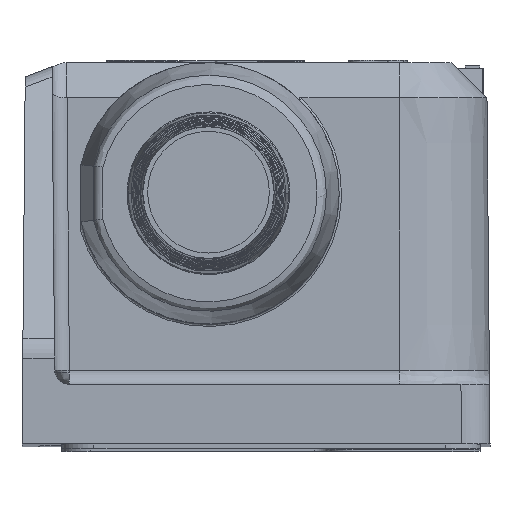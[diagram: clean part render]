
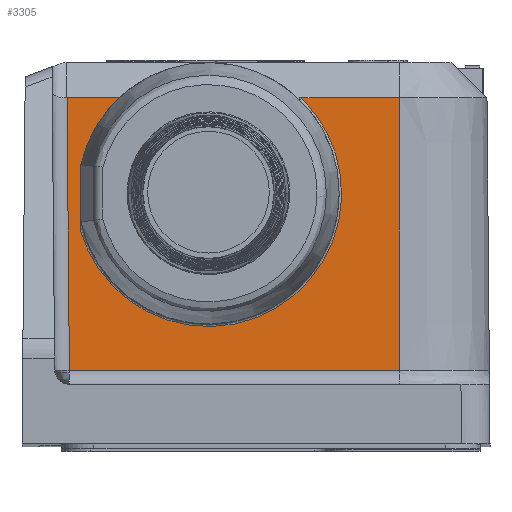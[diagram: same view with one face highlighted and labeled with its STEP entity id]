
A CAD part, top view. The second image highlights one B-rep face of the part: STEP entity #3305.
In plain terms, the highlighted planar face has unit normal (0, 0.009, 1).
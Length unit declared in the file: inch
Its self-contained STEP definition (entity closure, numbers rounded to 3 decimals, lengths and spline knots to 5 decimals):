
#3095 = EDGE_CURVE ( 'NONE', #3096, #3100, #11947, .T. ) ;
#3096 = VERTEX_POINT ( 'NONE', #11941 ) ;
#3100 = VERTEX_POINT ( 'NONE', #11895 ) ;
#3102 = EDGE_CURVE ( 'NONE', #3103, #3100, #11893, .T. ) ;
#3103 = VERTEX_POINT ( 'NONE', #11845 ) ;
#3229 = VERTEX_POINT ( 'NONE', #12611 ) ;
#3277 = EDGE_CURVE ( 'NONE', #3426, #3427, #13022, .T. ) ;
#3284 = VERTEX_POINT ( 'NONE', #13157 ) ;
#3305 = ADVANCED_FACE ( 'NONE', ( #13248 ), #13002, .T. ) ;
#3306 = EDGE_LOOP ( 'NONE', ( #3307, #3320, #3433, #3435, #3436, #3437, #3338, #3339 ) ) ;
#3307 = ORIENTED_EDGE ( 'NONE', *, *, #3445, .F. ) ;
#3320 = ORIENTED_EDGE ( 'NONE', *, *, #3277, .T. ) ;
#3338 = ORIENTED_EDGE ( 'NONE', *, *, #3102, .T. ) ;
#3339 = ORIENTED_EDGE ( 'NONE', *, *, #3095, .F. ) ;
#3395 = VERTEX_POINT ( 'NONE', #13653 ) ;
#3398 = EDGE_CURVE ( 'NONE', #3229, #3284, #13721, .T. ) ;
#3418 = EDGE_CURVE ( 'NONE', #3395, #3284, #13867, .T. ) ;
#3426 = VERTEX_POINT ( 'NONE', #13856 ) ;
#3427 = VERTEX_POINT ( 'NONE', #13855 ) ;
#3433 = ORIENTED_EDGE ( 'NONE', *, *, #3434, .T. ) ;
#3434 = EDGE_CURVE ( 'NONE', #3427, #3395, #21341, .T. ) ;
#3435 = ORIENTED_EDGE ( 'NONE', *, *, #3418, .T. ) ;
#3436 = ORIENTED_EDGE ( 'NONE', *, *, #3398, .F. ) ;
#3437 = ORIENTED_EDGE ( 'NONE', *, *, #3438, .T. ) ;
#3438 = EDGE_CURVE ( 'NONE', #3229, #3103, #21513, .T. ) ;
#3445 = EDGE_CURVE ( 'NONE', #3426, #3096, #20079, .T. ) ;
#11845 = CARTESIAN_POINT ( 'NONE',  ( -0.30486, 0.15573, 0.81064 ) ) ;
#11848 = DIRECTION ( 'NONE',  ( 1., 0., 0. ) ) ;
#11890 = VECTOR ( 'NONE', #11848, 39.37008 ) ;
#11891 = CARTESIAN_POINT ( 'NONE',  ( 0.39547, 0.15573, 0.81064 ) ) ;
#11893 = LINE ( 'NONE', #11891, #11890 ) ;
#11895 = CARTESIAN_POINT ( 'NONE',  ( 0.3895, 0.15573, 0.81064 ) ) ;
#11941 = CARTESIAN_POINT ( 'NONE',  ( 0.3895, 0.72937, 0.80563 ) ) ;
#11942 = DIRECTION ( 'NONE',  ( 0., -1., 0.009 ) ) ;
#11944 = VECTOR ( 'NONE', #11942, 39.37008 ) ;
#11945 = CARTESIAN_POINT ( 'NONE',  ( 0.3895, -19645.66929, 172.25716 ) ) ;
#11947 = LINE ( 'NONE', #11945, #11944 ) ;
#12611 = CARTESIAN_POINT ( 'NONE',  ( -0.30987, 0.72937, 0.80563 ) ) ;
#12998 = DIRECTION ( 'NONE',  ( 0., -1., 0.009 ) ) ;
#12999 = DIRECTION ( 'NONE',  ( 0., 0.009, 1. ) ) ;
#13000 = CARTESIAN_POINT ( 'NONE',  ( -1.44884, 0., 0.812 ) ) ;
#13001 = AXIS2_PLACEMENT_3D ( 'NONE', #13000, #12999, #12998 ) ;
#13002 = PLANE ( 'NONE',  #13001 ) ;
#13020 = CARTESIAN_POINT ( 'NONE',  ( 0.18201, 0.72937, 0.80563 ) ) ;
#13022 = B_SPLINE_CURVE_WITH_KNOTS ( 'NONE', 3,
 ( #13020, #13109, #13108, #13107, #13106, #13105, #13104, #13103, #13102, #13101, #13100, #13099, #13098, #13097, #13096, #13095, #13094, #13155, #13154, #13153, #13152, #13151, #13150, #13149, #13148, #13147, #13146, #13145, #13144, #13143, #13142, #13141, #13140, #13139, #13138, #13137, #13136, #13135, #13134, #13133 ),
 .UNSPECIFIED., .F., .F.,
 ( 4, 1, 2, 2, 2, 2, 2, 2, 2, 2, 2, 2, 2, 2, 2, 2, 2, 1, 2, 2, 4 ),
 ( 0., 0.03125, 0.04688, 0.0625, 0.125, 0.1875, 0.25, 0.3125, 0.375, 0.4375, 0.5, 0.5625, 0.625, 0.6875, 0.75, 0.8125, 0.875, 0.90625, 0.92188, 0.9375, 1. ),
 .UNSPECIFIED. ) ;
#13094 = CARTESIAN_POINT ( 'NONE',  ( 0.21205, 0.35933, 0.80886 ) ) ;
#13095 = CARTESIAN_POINT ( 'NONE',  ( 0.23506, 0.39541, 0.80855 ) ) ;
#13096 = CARTESIAN_POINT ( 'NONE',  ( 0.2444, 0.41456, 0.80838 ) ) ;
#13097 = CARTESIAN_POINT ( 'NONE',  ( 0.25865, 0.45492, 0.80803 ) ) ;
#13098 = CARTESIAN_POINT ( 'NONE',  ( 0.26341, 0.47568, 0.80785 ) ) ;
#13099 = CARTESIAN_POINT ( 'NONE',  ( 0.26815, 0.51823, 0.80748 ) ) ;
#13100 = CARTESIAN_POINT ( 'NONE',  ( 0.26808, 0.53953, 0.80729 ) ) ;
#13101 = CARTESIAN_POINT ( 'NONE',  ( 0.26306, 0.58203, 0.80692 ) ) ;
#13102 = CARTESIAN_POINT ( 'NONE',  ( 0.25817, 0.60277, 0.80674 ) ) ;
#13103 = CARTESIAN_POINT ( 'NONE',  ( 0.24366, 0.64301, 0.80639 ) ) ;
#13104 = CARTESIAN_POINT ( 'NONE',  ( 0.2342, 0.6621, 0.80622 ) ) ;
#13105 = CARTESIAN_POINT ( 'NONE',  ( 0.21964, 0.6846, 0.80603 ) ) ;
#13106 = CARTESIAN_POINT ( 'NONE',  ( 0.21666, 0.68893, 0.80599 ) ) ;
#13107 = CARTESIAN_POINT ( 'NONE',  ( 0.2104, 0.6975, 0.80591 ) ) ;
#13108 = CARTESIAN_POINT ( 'NONE',  ( 0.20063, 0.71008, 0.8058 ) ) ;
#13109 = CARTESIAN_POINT ( 'NONE',  ( 0.18975, 0.72186, 0.8057 ) ) ;
#13133 = CARTESIAN_POINT ( 'NONE',  ( -0.28087, 0.44808, 0.80808 ) ) ;
#13134 = CARTESIAN_POINT ( 'NONE',  ( -0.27467, 0.42741, 0.80827 ) ) ;
#13135 = CARTESIAN_POINT ( 'NONE',  ( -0.26632, 0.40785, 0.80844 ) ) ;
#13136 = CARTESIAN_POINT ( 'NONE',  ( -0.25318, 0.38479, 0.80864 ) ) ;
#13137 = CARTESIAN_POINT ( 'NONE',  ( -0.25038, 0.38017, 0.80868 ) ) ;
#13138 = CARTESIAN_POINT ( 'NONE',  ( -0.24458, 0.37121, 0.80876 ) ) ;
#13139 = CARTESIAN_POINT ( 'NONE',  ( -0.23551, 0.35805, 0.80888 ) ) ;
#13140 = CARTESIAN_POINT ( 'NONE',  ( -0.22535, 0.34572, 0.80898 ) ) ;
#13141 = CARTESIAN_POINT ( 'NONE',  ( -0.20358, 0.32218, 0.80919 ) ) ;
#13142 = CARTESIAN_POINT ( 'NONE',  ( -0.18743, 0.30828, 0.80931 ) ) ;
#13143 = CARTESIAN_POINT ( 'NONE',  ( -0.152, 0.28424, 0.80952 ) ) ;
#13144 = CARTESIAN_POINT ( 'NONE',  ( -0.13313, 0.27437, 0.80961 ) ) ;
#13145 = CARTESIAN_POINT ( 'NONE',  ( -0.09318, 0.25898, 0.80974 ) ) ;
#13146 = CARTESIAN_POINT ( 'NONE',  ( -0.07256, 0.25364, 0.80979 ) ) ;
#13147 = CARTESIAN_POINT ( 'NONE',  ( -0.03018, 0.2477, 0.80984 ) ) ;
#13148 = CARTESIAN_POINT ( 'NONE',  ( -0.00888, 0.24716, 0.80984 ) ) ;
#13149 = CARTESIAN_POINT ( 'NONE',  ( 0.03375, 0.25098, 0.80981 ) ) ;
#13150 = CARTESIAN_POINT ( 'NONE',  ( 0.05461, 0.25528, 0.80977 ) ) ;
#13151 = CARTESIAN_POINT ( 'NONE',  ( 0.09528, 0.26865, 0.80966 ) ) ;
#13152 = CARTESIAN_POINT ( 'NONE',  ( 0.11462, 0.27756, 0.80958 ) ) ;
#13153 = CARTESIAN_POINT ( 'NONE',  ( 0.1512, 0.29979, 0.80938 ) ) ;
#13154 = CARTESIAN_POINT ( 'NONE',  ( 0.16803, 0.31286, 0.80927 ) ) ;
#13155 = CARTESIAN_POINT ( 'NONE',  ( 0.19861, 0.34279, 0.80901 ) ) ;
#13157 = CARTESIAN_POINT ( 'NONE',  ( -0.19979, 0.72937, 0.80563 ) ) ;
#13248 = FACE_OUTER_BOUND ( 'NONE', #3306, .T. ) ;
#13648 = DIRECTION ( 'NONE',  ( 1., 0., 0. ) ) ;
#13649 = VECTOR ( 'NONE', #13648, 39.37008 ) ;
#13653 = CARTESIAN_POINT ( 'NONE',  ( -0.28087, 0.58804, 0.80687 ) ) ;
#13720 = CARTESIAN_POINT ( 'NONE',  ( -0.0075, 0.72937, 0.80563 ) ) ;
#13721 = LINE ( 'NONE', #13720, #13649 ) ;
#13761 = CARTESIAN_POINT ( 'NONE',  ( -0.19979, 0.72937, 0.80563 ) ) ;
#13763 = CARTESIAN_POINT ( 'NONE',  ( -0.22018, 0.71036, 0.8058 ) ) ;
#13765 = CARTESIAN_POINT ( 'NONE',  ( -0.23726, 0.68885, 0.80599 ) ) ;
#13766 = CARTESIAN_POINT ( 'NONE',  ( -0.2648, 0.64084, 0.80641 ) ) ;
#13783 = CARTESIAN_POINT ( 'NONE',  ( -0.27476, 0.61522, 0.80663 ) ) ;
#13784 = CARTESIAN_POINT ( 'NONE',  ( -0.28087, 0.58804, 0.80687 ) ) ;
#13855 = CARTESIAN_POINT ( 'NONE',  ( -0.28087, 0.44808, 0.80808 ) ) ;
#13856 = CARTESIAN_POINT ( 'NONE',  ( 0.18201, 0.72937, 0.80563 ) ) ;
#13867 = B_SPLINE_CURVE_WITH_KNOTS ( 'NONE', 3,
 ( #13784, #13783, #13766, #13765, #13763, #13761 ),
 .UNSPECIFIED., .F., .F.,
 ( 4, 2, 4 ),
 ( 0., 0.5, 1. ),
 .UNSPECIFIED. ) ;
#20079 = B_SPLINE_CURVE_WITH_KNOTS ( 'NONE', 3,
 ( #20136, #20135, #20146, #20144 ),
 .UNSPECIFIED., .F., .F.,
 ( 4, 4 ),
 ( 0., 1. ),
 .UNSPECIFIED. ) ;
#20135 = CARTESIAN_POINT ( 'NONE',  ( 0.25117, 0.72937, 0.80563 ) ) ;
#20136 = CARTESIAN_POINT ( 'NONE',  ( 0.18201, 0.72937, 0.80563 ) ) ;
#20144 = CARTESIAN_POINT ( 'NONE',  ( 0.3895, 0.72937, 0.80563 ) ) ;
#20146 = CARTESIAN_POINT ( 'NONE',  ( 0.32034, 0.72937, 0.80563 ) ) ;
#21338 = DIRECTION ( 'NONE',  ( 0., 1., -0.009 ) ) ;
#21339 = VECTOR ( 'NONE', #21338, 39.37008 ) ;
#21340 = CARTESIAN_POINT ( 'NONE',  ( -0.28087, 0., 0.812 ) ) ;
#21341 = LINE ( 'NONE', #21340, #21339 ) ;
#21508 = DIRECTION ( 'NONE',  ( 0.009, -1., 0.009 ) ) ;
#21509 = VECTOR ( 'NONE', #21508, 39.37008 ) ;
#21511 = CARTESIAN_POINT ( 'NONE',  ( -0.30451, 0.11578, 0.81099 ) ) ;
#21513 = LINE ( 'NONE', #21511, #21509 ) ;
